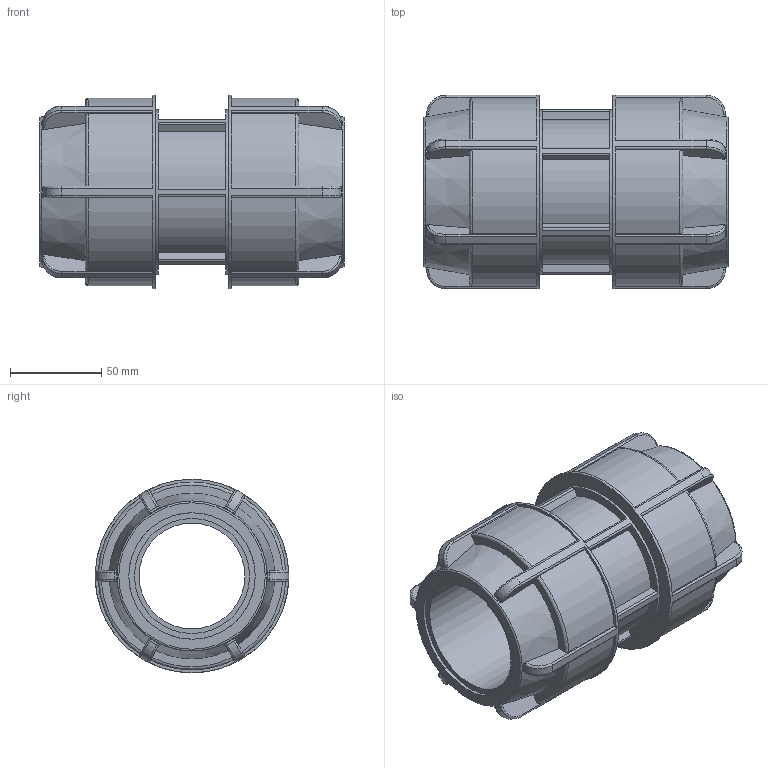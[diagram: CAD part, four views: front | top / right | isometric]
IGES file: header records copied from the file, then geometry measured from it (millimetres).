
Global section: file name: 140100063.ipt; native system: Autodesk Inventor 2015; preprocessor: unknown; author: KIM; date: 20180612.155252; units: millimetre
Bounding box: 167 x 105.99 x 106 mm (x, y, z)
Volume: 640437.8 mm3; surface area: 106381.7 mm2
Topology: 1 solids, 1 shells, 230 faces, 609 edges, 392 vertices
Faces by surface type: plane 92, cylinder 81, revolution 31, bspline 24, cone 2
Full cylindrical faces by diameter (mm): 90.1 x1, 106 x2
